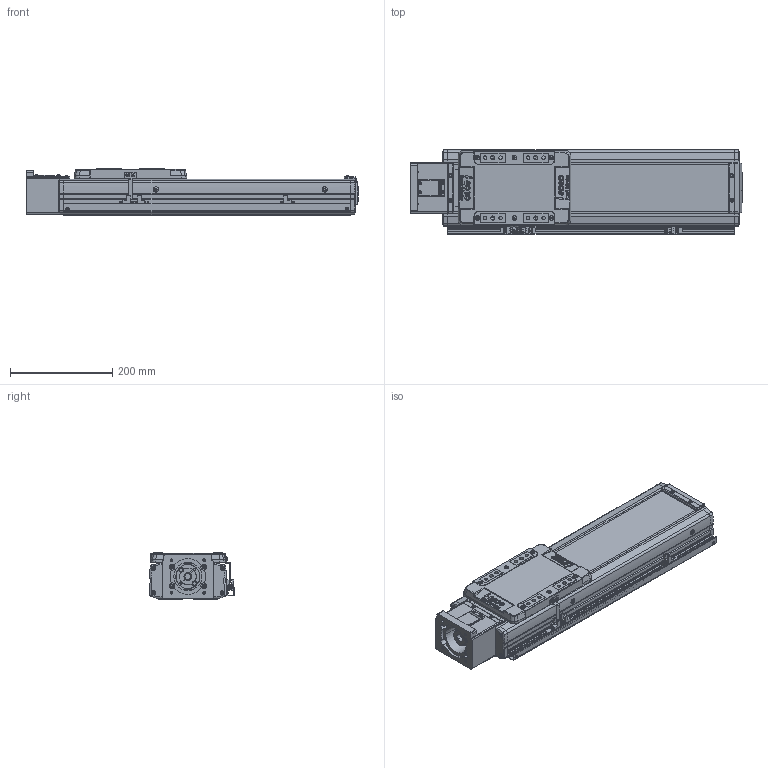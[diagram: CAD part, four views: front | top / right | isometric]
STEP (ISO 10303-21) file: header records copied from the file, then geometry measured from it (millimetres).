
FILE_DESCRIPTION(('STEP AP214'),'1');
FILE_NAME('Z:/Web/3D/SAN150/2013.04 (STP.)/SAN150ㅁㅁ-300S+3SR.stp','2013-05-08T02:07:07',(' '),(' '),'Spatial InterOp 3D',' ',' ');
FILE_SCHEMA(('automotive_design'));
Length unit declared in the file: millimetre
Products named in the file (93): M3.0 x 6.0; SRL-16x17-360L; SGD-SAN150; EE-SX674; SBK-SX674-352; 스크루 : Round - M3.0 x 6.0; BHCS M4.0 x 10.0; SLBL-SAN150; SLCV-SAN150; FHCS M4.0 x 8.0; SFX-SAN150; RRCV-SAN150; FRBL-SAN150; Spacer; RN15; FRCV-SAN150; Screw 20; BASE-SAN150-000L ; SUS COVER; 스크루 : Round - M5.0 x 6.0; BHCS M3.0 x 6.0; SSFX-SAN65; CPLCV-SAN65; SDWA47C(2); SDWA47C(3-1); SDWA47C(3); SDWA47C(1); SDWA47C(4); SDWA47C(5); MTHZ-SAN150-80
Bounding box: 649 x 166 x 90 mm (x, y, z)
Volume: 4121718.9 mm3; surface area: 860327.5 mm2
Topology: 93 solids, 93 shells, 3304 faces, 8587 edges, 5569 vertices
Faces by surface type: plane 1561, cylinder 1241, cone 381, sphere 76, bspline 29, torus 16
Entity records: 132844 total; most frequent: CARTESIAN_POINT 21031, DIRECTION 18575, ORIENTED_EDGE 16966, EDGE_CURVE 8483, AXIS2_PLACEMENT_3D 6868, VERTEX_POINT 5569, LINE 4839, VECTOR 4839
